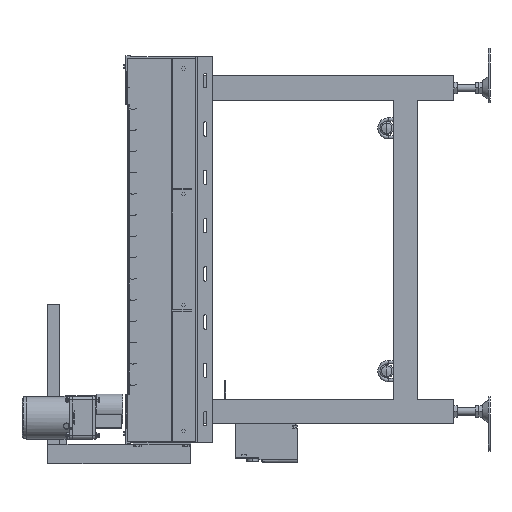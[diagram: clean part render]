
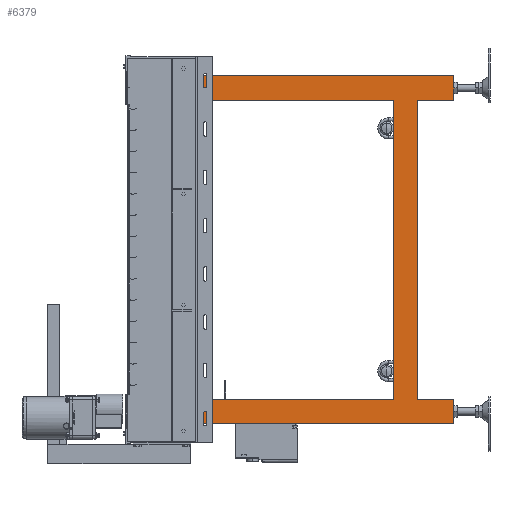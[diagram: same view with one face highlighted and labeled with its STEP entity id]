
A CAD part, left-side view. The second image highlights one B-rep face of the part: STEP entity #6379.
In plain terms, the highlighted planar face has unit normal (-1, 0, 0).
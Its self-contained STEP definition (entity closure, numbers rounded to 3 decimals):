
#6379=ADVANCED_FACE('',(#36386),#36385,.T.);
#36385=PLANE('',#60609);
#36386=FACE_OUTER_BOUND('',#60610,.T.);
#60606=CARTESIAN_POINT('',(10.,-685.,-370.));
#60607=DIRECTION('',(-1.,0.,0.));
#60608=DIRECTION('',(0.,0.,1.));
#60609=AXIS2_PLACEMENT_3D('',#60606,#60607,#60608);
#60610=EDGE_LOOP('',(#77555,#77556,#77557,#77558,#77559,#77560,#77561,#77562,#77563,#77564,#77565,#77566));
#77555=ORIENTED_EDGE('',*,*,#87989,.F.);
#77556=ORIENTED_EDGE('',*,*,#87972,.F.);
#77557=ORIENTED_EDGE('',*,*,#87990,.F.);
#77558=ORIENTED_EDGE('',*,*,#87977,.T.);
#77559=ORIENTED_EDGE('',*,*,#87991,.T.);
#77560=ORIENTED_EDGE('',*,*,#87992,.F.);
#77561=ORIENTED_EDGE('',*,*,#87993,.F.);
#77562=ORIENTED_EDGE('',*,*,#87994,.T.);
#77563=ORIENTED_EDGE('',*,*,#87963,.T.);
#77564=ORIENTED_EDGE('',*,*,#87980,.F.);
#77565=ORIENTED_EDGE('',*,*,#87995,.T.);
#77566=ORIENTED_EDGE('',*,*,#87996,.T.);
#87963=EDGE_CURVE('',#135693,#135707,#135714,.T.);
#87972=EDGE_CURVE('',#135768,#135775,#135776,.T.);
#87977=EDGE_CURVE('',#135788,#135803,#135810,.T.);
#87980=EDGE_CURVE('',#135823,#135707,#135830,.T.);
#87989=EDGE_CURVE('',#135775,#135889,#135890,.T.);
#87990=EDGE_CURVE('',#135788,#135768,#135896,.T.);
#87991=EDGE_CURVE('',#135803,#135902,#135903,.T.);
#87992=EDGE_CURVE('',#135909,#135902,#135910,.T.);
#87993=EDGE_CURVE('',#135916,#135909,#135917,.T.);
#87994=EDGE_CURVE('',#135916,#135693,#135923,.T.);
#87995=EDGE_CURVE('',#135823,#135929,#135930,.T.);
#87996=EDGE_CURVE('',#135929,#135889,#135936,.T.);
#135693=VERTEX_POINT('',#175612);
#135707=VERTEX_POINT('',#175620);
#135714=LINE('',#175624,#175625);
#135768=VERTEX_POINT('',#175654);
#135775=VERTEX_POINT('',#175658);
#135776=LINE('',#175659,#175660);
#135788=VERTEX_POINT('',#175665);
#135803=VERTEX_POINT('',#175674);
#135810=LINE('',#175678,#175679);
#135823=VERTEX_POINT('',#175685);
#135830=LINE('',#175689,#175690);
#135889=VERTEX_POINT('',#175721);
#135890=LINE('',#175722,#175723);
#135896=LINE('',#175725,#175726);
#135902=VERTEX_POINT('',#175728);
#135903=LINE('',#175729,#175730);
#135909=VERTEX_POINT('',#175732);
#135910=LINE('',#175733,#175734);
#135916=VERTEX_POINT('',#175736);
#135917=LINE('',#175737,#175738);
#135923=LINE('',#175740,#175741);
#135929=VERTEX_POINT('',#175743);
#135930=LINE('',#175744,#175745);
#135936=LINE('',#175747,#175748);
#175612=CARTESIAN_POINT('',(10.,-600.,-310.));
#175620=CARTESIAN_POINT('',(10.,-600.,310.));
#175624=CARTESIAN_POINT('',(10.,-600.,-310.));
#175625=VECTOR('',#175626,620.);
#175626=DIRECTION('',(0.,0.,1.));
#175654=CARTESIAN_POINT('',(10.,-550.,310.));
#175658=CARTESIAN_POINT('',(10.,-143.2,310.));
#175659=CARTESIAN_POINT('',(10.,-550.,310.));
#175660=VECTOR('',#175661,406.8);
#175661=DIRECTION('',(0.,1.,0.));
#175665=CARTESIAN_POINT('',(10.,-550.,-310.));
#175674=CARTESIAN_POINT('',(10.,-143.2,-310.));
#175678=CARTESIAN_POINT('',(10.,-550.,-310.));
#175679=VECTOR('',#175680,406.8);
#175680=DIRECTION('',(0.,1.,0.));
#175685=CARTESIAN_POINT('',(10.,-675.,310.));
#175689=CARTESIAN_POINT('',(10.,-675.,310.));
#175690=VECTOR('',#175691,75.);
#175691=DIRECTION('',(0.,1.,0.));
#175721=CARTESIAN_POINT('',(10.,-143.2,360.));
#175722=CARTESIAN_POINT('',(10.,-143.2,310.));
#175723=VECTOR('',#175724,50.);
#175724=DIRECTION('',(0.,0.,1.));
#175725=CARTESIAN_POINT('',(10.,-550.,-310.));
#175726=VECTOR('',#175727,620.);
#175727=DIRECTION('',(0.,0.,1.));
#175728=CARTESIAN_POINT('',(10.,-143.2,-360.));
#175729=CARTESIAN_POINT('',(10.,-143.2,-310.));
#175730=VECTOR('',#175731,50.);
#175731=DIRECTION('',(0.,0.,-1.));
#175732=CARTESIAN_POINT('',(10.,-675.,-360.));
#175733=CARTESIAN_POINT('',(10.,-675.,-360.));
#175734=VECTOR('',#175735,531.8);
#175735=DIRECTION('',(0.,1.,0.));
#175736=CARTESIAN_POINT('',(10.,-675.,-310.));
#175737=CARTESIAN_POINT('',(10.,-675.,-310.));
#175738=VECTOR('',#175739,50.);
#175739=DIRECTION('',(0.,0.,-1.));
#175740=CARTESIAN_POINT('',(10.,-675.,-310.));
#175741=VECTOR('',#175742,75.);
#175742=DIRECTION('',(0.,1.,0.));
#175743=CARTESIAN_POINT('',(10.,-675.,360.));
#175744=CARTESIAN_POINT('',(10.,-675.,310.));
#175745=VECTOR('',#175746,50.);
#175746=DIRECTION('',(0.,0.,1.));
#175747=CARTESIAN_POINT('',(10.,-675.,360.));
#175748=VECTOR('',#175749,531.8);
#175749=DIRECTION('',(0.,1.,0.));
